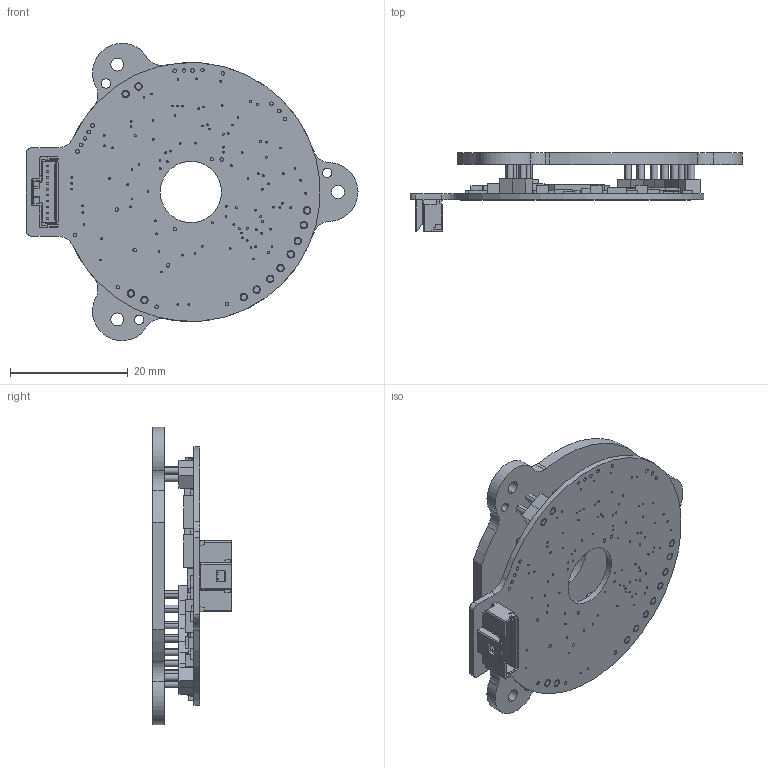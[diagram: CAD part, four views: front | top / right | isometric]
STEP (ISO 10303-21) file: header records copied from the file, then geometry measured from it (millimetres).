
FILE_DESCRIPTION (( 'STEP AP214' ), '1' );
FILE_NAME ('1020-101_Rev1-1_PA1.STEP', '2021-08-05T07:25:00', ( '' ), ( '' ), 'SwSTEP 2.0', 'SolidWorks 2021', '' );
FILE_SCHEMA (( 'AUTOMOTIVE_DESIGN' ));
Length unit declared in the file: millimetre
Products named in the file (54): Copy of 0402_R_0402 3K resistor^Copy of e_1020_revc_1020-101_Rev1-1; Copy of 0402_R_0402 330K resistor^Copy of e_1020_revc_1020-101_Rev1-1; Copy of 0402_R_0402 0R0 resistor^Copy of e_1020_revc_1020-101_Rev1-1; Copy of e_1020_revc^1020-101_Rev1-1; Copy of moulding^Copy of 2 pin header assembly_1020-101_Rev1-1; Copy of SOT23_R_FDV302P^Copy of e_1020_revc_1020-101_Rev1-1; Copy of e_1020_revc^Copy of e_1020_revc_1020-101_Rev1-1; Copy of 0603_R_0603 10R resistor^Copy of e_1020_revc_1020-101_Rev1-1; Copy of 0402_R_0402 82K resistor^Copy of e_1020_revc_1020-101_Rev1-1; Copy of 0402_R_0402 1n 50V capacitor^Copy of e_1020_revc_1020-101_Rev1-1; Copy of SOP8_R_SP3077EENL^Copy of e_1020_revc_1020-101_Rev1-1; Copy of SOP8_R_SP3072EENL^Copy of e_1020_revc_1020-101_Rev1-1; Copy of 0402_R_0402 10n 50V capacitor^Copy of e_1020_revc_1020-101_Rev1-1; Copy of 0402_R_0402 27K resistor^Copy of e_1020_revc_1020-101_Rev1-1; Copy of 0805_R_0805 10u 10V capacitor^Copy of e_1020_revc_1020-101_Rev1-1; Copy of 0402_R_0402 6K65 TF resistor^Copy of e_1020_revc_1020-101_Rev1-1; Copy of 0402_R_0402 100K resistor^Copy of e_1020_revc_1020-101_Rev1-1; Copy of 0402_R_0402 100n 50V capacitor^Copy of e_1020_revc_1020-101_Rev1-1; Copy of 0402_R_0402 10K resistor^Copy of e_1020_revc_1020-101_Rev1-1; Copy of 0805_R_0805 2u2 50V capacitor^Copy of e_1020_revc_1020-101_Rev1-1; Copy of 0402_R_0402 510K resistor^Copy of e_1020_revc_1020-101_Rev1-1; Copy of 0402_R_0402 1K resistor^Copy of e_1020_revc_1020-101_Rev1-1; Copy of LQFP48_STM32F103CBT6^Copy of e_1020_revc_1020-101_Rev1-1; Copy of 0603_R_0603 200k TF resistor^Copy of e_1020_revc_1020-101_Rev1-1; Copy of SC70 Small_SN74LVC1G3157DCKRALT^Copy of e_1020_revc_1020-101_Rev1-1; Copy of 5015681007^1020-101_Rev1-1; Copy of TSOT23_LT3060ETS83.3^Copy of e_1020_revc_1020-101_Rev1-1; Copy of SOT23 5lead_AD8628ARTZR2^Copy of e_1020_revc_1020-101_Rev1-1; Copy of SOT353_R_74AHC1G04GW^Copy of e_1020_revc_1020-101_Rev1-1; Copy of 0603_R_0603 2u2 10V capacitor^Copy of e_1020_revc_1020-101_Rev1-1; Copy of TSOT23_LT3060ETS8^Copy of e_1020_revc_1020-101_Rev1-1; 1020-102_Rev1-1; Copy of 0402_R_0402 1K65 TF resistor^Copy of e_1020_revc_1020-101_Rev1-1; Copy of CSTCE_CSTCE8M00G55Z^Copy of e_1020_revc_1020-101_Rev1-1; Copy of SOT323_R_BAT54CW^Copy of e_1020_revc_1020-101_Rev1-1; Copy of 0612_0612 Quad Resistor 56R^Copy of e_1020_revc_1020-101_Rev1-1; Copy of SOT23 5lead_LD39015M33R^Copy of e_1020_revc_1020-101_Rev1-1; Copy of pin^Copy of 2 pin header assembly_1020-101_Rev1-1; Copy of 0612_0612 Quad Capacitor 100n^Copy of e_1020_revc_1020-101_Rev1-1; Copy of 0805_R_0805 3k3 resistor 0.5W^Copy of e_1020_revc_1020-101_Rev1-1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
Assembly tree (140 placements, depth 3):
  1020-101_Rev1-1_PA1
    1020-102_Rev1-1
    Copy of 2 pin header assembly^1020-101_Rev1-1  x6
      Copy of moulding^Copy of 2 pin header assembly_1020-101_Rev1-1
      Copy of pin^Copy of 2 pin header assembly_1020-101_Rev1-1
    Copy of e_1020_revc^1020-101_Rev1-1
      Copy of e_1020_revc^Copy of e_1020_revc_1020-101_Rev1-1
      Copy of 0805_R_0805 10u 10V capacitor^Copy of e_1020_revc_1020-101_Rev1-1  x6
      Copy of SOT23_R_FDV301N^Copy of e_1020_revc_1020-101_Rev1-1
      Copy of SOT23_R_FDV302P^Copy of e_1020_revc_1020-101_Rev1-1  x2
      Copy of 0402_R_0402 100n 50V capacitor^Copy of e_1020_revc_1020-101_Rev1-1  x18
      Copy of 0402_R_0402 33p capacitor^Copy of e_1020_revc_1020-101_Rev1-1  x8
      Copy of 0402_R_0402 1K resistor^Copy of e_1020_revc_1020-101_Rev1-1  x5
      Copy of CSTCE_CSTCE8M00G55Z^Copy of e_1020_revc_1020-101_Rev1-1
      Copy of 0402_R_0402 330R resistor^Copy of e_1020_revc_1020-101_Rev1-1
      Copy of 0402_R_0402 10n 50V capacitor^Copy of e_1020_revc_1020-101_Rev1-1  x6
      Copy of 0402_BLM15_0402 1K 200mA ferrite^Copy of e_1020_revc_1020-101_Rev1-1  x9
      Copy of 0402_R_0402 0R0 resistor^Copy of e_1020_revc_1020-101_Rev1-1  x4
      Copy of 0805_R_0805 2u2 50V capacitor^Copy of e_1020_revc_1020-101_Rev1-1  x2
      Copy of TSOT23_LT3060ETS83.3^Copy of e_1020_revc_1020-101_Rev1-1
      Copy of LQFP48_STM32F103CBT6^Copy of e_1020_revc_1020-101_Rev1-1
      Copy of SOT23 5lead_LD39015M33R^Copy of e_1020_revc_1020-101_Rev1-1  x2
      Copy of 0603_R_0603 2u2 10V capacitor^Copy of e_1020_revc_1020-101_Rev1-1  x6
      Copy of SC70 Small_SN74LVC1G3157DCKRALT^Copy of e_1020_revc_1020-101_Rev1-1  x12
      Copy of 0805_R_0805 3k3 resistor 0.5W^Copy of e_1020_revc_1020-101_Rev1-1  x2
      Copy of 0603_R_0603 200k TF resistor^Copy of e_1020_revc_1020-101_Rev1-1  x2
      Copy of 0402_R_0402 10K resistor^Copy of e_1020_revc_1020-101_Rev1-1  x2
      Copy of 0612_0612 Quad Resistor 56R^Copy of e_1020_revc_1020-101_Rev1-1
      Copy of 0402_R_0402 3K resistor^Copy of e_1020_revc_1020-101_Rev1-1
      Copy of 0402_R_0402 82K resistor^Copy of e_1020_revc_1020-101_Rev1-1
      Copy of 0612_0612 Quad Resistor 33R^Copy of e_1020_revc_1020-101_Rev1-1  x2
      Copy of 0805_L_0805 1uH SIMID inductor^Copy of e_1020_revc_1020-101_Rev1-1
      Copy of 0402_R_0402 6K65 TF resistor^Copy of e_1020_revc_1020-101_Rev1-1  x4
      Copy of SOP8_R_SP3077EENL^Copy of e_1020_revc_1020-101_Rev1-1
      Copy of SOP8_R_SP3072EENL^Copy of e_1020_revc_1020-101_Rev1-1
      Copy of 0603_R_0603 10n capacitor COG 5%^Copy of e_1020_revc_1020-101_Rev1-1
      Copy of 0603_R_0603 10n capacitor^Copy of e_1020_revc_1020-101_Rev1-1
      Copy of 0603_R_0603 10R resistor^Copy of e_1020_revc_1020-101_Rev1-1
      Copy of SOT353_R_74AHC1G04GW^Copy of e_1020_revc_1020-101_Rev1-1
      Copy of SOT323_R_BAT54CW^Copy of e_1020_revc_1020-101_Rev1-1
      Copy of 0402_R_0402 1n 50V capacitor^Copy of e_1020_revc_1020-101_Rev1-1
      Copy of TSOT23_LT3060ETS8^Copy of e_1020_revc_1020-101_Rev1-1
      Copy of SOT23 5lead_AD8628ARTZR2^Copy of e_1020_revc_1020-101_Rev1-1  x2
      Copy of 0402_R_0402 510K resistor^Copy of e_1020_revc_1020-101_Rev1-1
      Copy of 0402_R_0402 27K resistor^Copy of e_1020_revc_1020-101_Rev1-1  x2
      Copy of 0612_0612 Quad Capacitor 100n^Copy of e_1020_revc_1020-101_Rev1-1
      Copy of 0402_R_0402 1K65 TF resistor^Copy of e_1020_revc_1020-101_Rev1-1  x4
      Copy of 0402_R_0402 33R resistor^Copy of e_1020_revc_1020-101_Rev1-1
      Copy of 0402_R_0402 330K resistor^Copy of e_1020_revc_1020-101_Rev1-1
      Copy of 0402_R_0402 270K resistor^Copy of e_1020_revc_1020-101_Rev1-1
      Copy of 0402_R_0402 100K resistor^Copy of e_1020_revc_1020-101_Rev1-1
      Copy of MSOP_8EP_LT3062EMS8EAdj^Copy of e_1020_revc_1020-101_Rev1-1
      Copy of SOT23 5lead_REF2030AIDDCT^Copy of e_1020_revc_1020-101_Rev1-1
    Copy of 5015681007^1020-101_Rev1-1
Bounding box: 56.4 x 13.35 x 50.53 mm (x, y, z)
Volume: 5853.2 mm3; surface area: 10921.7 mm2
Topology: 153 solids, 153 shells, 1617 faces, 3881 edges, 2580 vertices
Faces by surface type: plane 1163, cylinder 450, cone 4
Entity records: 41274 total; most frequent: DIRECTION 5760, CARTESIAN_POINT 5599, ORIENTED_EDGE 5314, EDGE_CURVE 2657, AXIS2_PLACEMENT_3D 1962, LINE 1836, VECTOR 1836, VERTEX_POINT 1764
